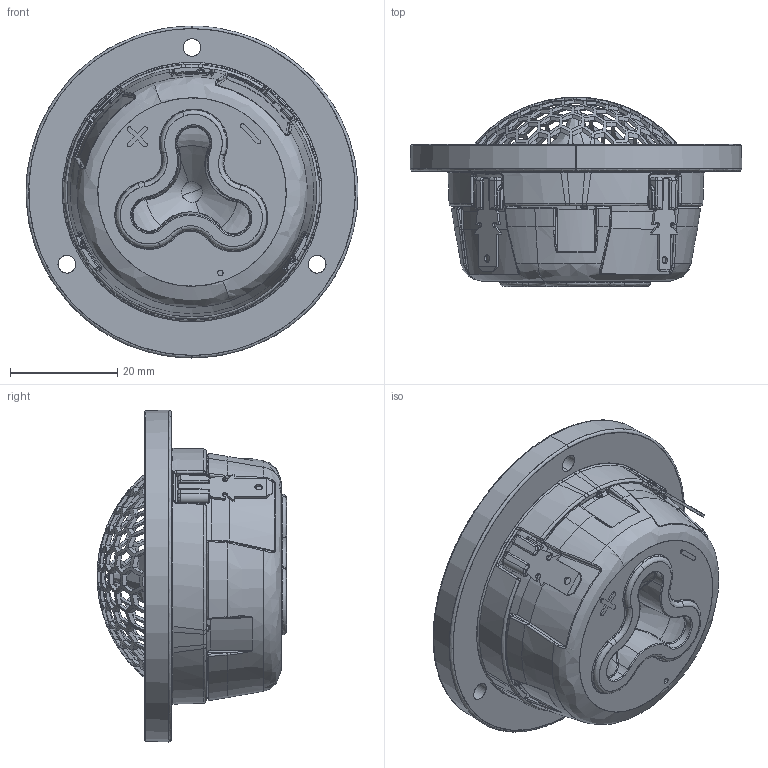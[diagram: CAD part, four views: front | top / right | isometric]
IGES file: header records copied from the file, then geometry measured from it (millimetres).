
Start section: SolidWorks IGES file using analytic representation for surfaces
Global section: file name: W:\TT\R30\R3004-602006.IGS; native system: SolidWorks 2019; preprocessor: SolidWorks 2019; author: mhn; date: 201215.111802; units: millimetre
Bounding box: 61.91 x 35.28 x 61.91 mm (x, y, z)
Surface area: 17302.1 mm2 (no closed solid volume)
Topology: 0 solids, 0 shells, 1565 faces, 12635 edges, 12616 vertices
Faces by surface type: bspline 1211, revolution 354
